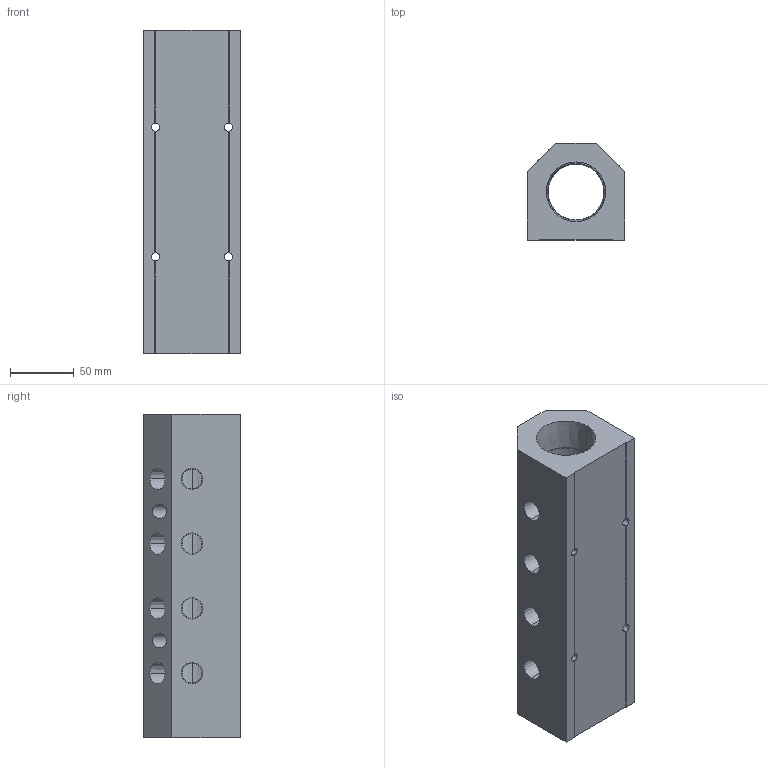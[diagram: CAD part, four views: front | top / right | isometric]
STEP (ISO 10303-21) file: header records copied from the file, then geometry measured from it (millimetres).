
FILE_DESCRIPTION (( 'STEP AP214' ), '1' );
FILE_NAME ('ALM4ABC-N6N24-254B.step', '2022-02-07T09:08:14', ( '' ), ( '' ), 'SwSTEP 2.0', 'SolidWorks 2020', '' );
FILE_SCHEMA (( 'AUTOMOTIVE_DESIGN' ));
Length unit declared in the file: millimetre
Products named in the file (1): ALM4ABC-N6N24-254B
Bounding box: 76.2 x 76.2 x 254 mm (x, y, z)
Volume: 898240.7 mm3; surface area: 124345.2 mm2
Topology: 1 solids, 1 shells, 344 faces, 914 edges, 604 vertices
Faces by surface type: plane 237, bspline 61, cone 28, cylinder 18
Entity records: 18857 total; most frequent: CARTESIAN_POINT 7428, ORIENTED_EDGE 1828, DIRECTION 1380, EDGE_CURVE 914, LINE 692, VECTOR 692, VERTEX_POINT 604, EDGE_LOOP 410
